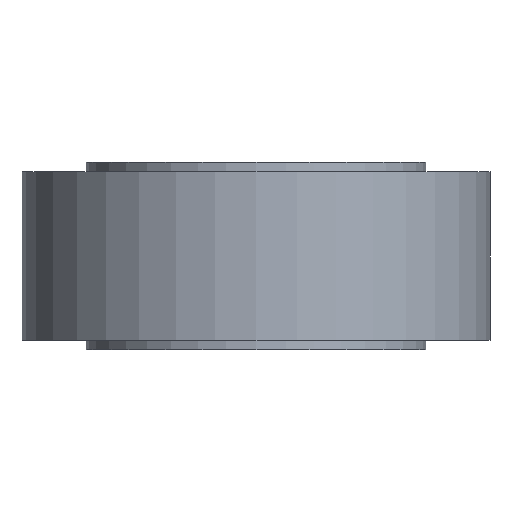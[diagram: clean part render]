
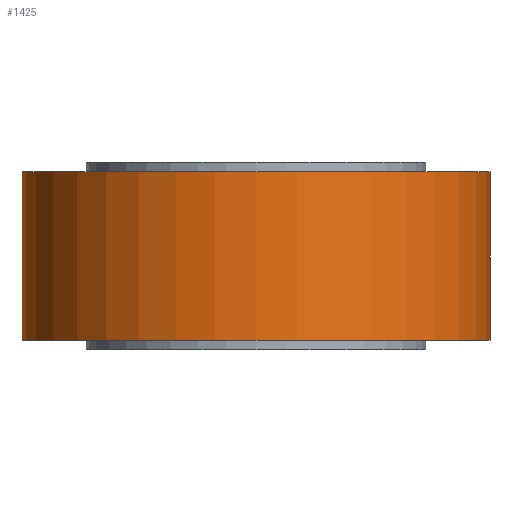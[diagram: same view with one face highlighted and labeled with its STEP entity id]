
A CAD part, front view. The second image highlights one B-rep face of the part: STEP entity #1425.
In plain terms, the highlighted cylindrical face has radius 25 mm (diameter 50 mm), a full revolution.
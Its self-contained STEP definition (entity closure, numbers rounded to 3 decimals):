
#30=B_SPLINE_CURVE_WITH_KNOTS('',3,(#2361,#2362,#2363,#2364,#2365,#2366,
#2367,#2368,#2369,#2370,#2371,#2372,#2373,#2374,#2375,#2376,#2377,#2378,
#2379),.UNSPECIFIED.,.F.,.F.,(4,2,2,2,3,2,2,2,4),(2.838,3.075,
3.311,3.548,3.784,4.021,4.257,
4.494,4.73),.UNSPECIFIED.);
#31=B_SPLINE_CURVE_WITH_KNOTS('',3,(#2380,#2381,#2382,#2383,#2384,#2385,
#2386,#2387,#2388,#2389,#2390,#2391,#2392,#2393,#2394,#2395,#2396,#2397),
 .UNSPECIFIED.,.F.,.F.,(4,2,2,2,2,2,2,2,4),(0.946,1.183,
1.419,1.656,1.892,2.129,2.365,
2.602,2.838),.UNSPECIFIED.);
#64=FACE_BOUND('',#228,.T.);
#133=FACE_OUTER_BOUND('',#227,.T.);
#227=EDGE_LOOP('',(#1034,#1035,#1036,#1037,#1038,#1039));
#228=EDGE_LOOP('',(#1040,#1041));
#316=LINE('',#2355,#384);
#384=VECTOR('',#1867,25.);
#480=CIRCLE('',#1569,25.);
#481=CIRCLE('',#1570,25.);
#482=CIRCLE('',#1572,25.);
#483=CIRCLE('',#1573,25.);
#610=VERTEX_POINT('',#2349);
#611=VERTEX_POINT('',#2350);
#612=VERTEX_POINT('',#2354);
#613=VERTEX_POINT('',#2356);
#614=VERTEX_POINT('',#2359);
#615=VERTEX_POINT('',#2360);
#773=EDGE_CURVE('',#610,#611,#480,.T.);
#774=EDGE_CURVE('',#611,#610,#481,.T.);
#775=EDGE_CURVE('',#611,#612,#316,.T.);
#776=EDGE_CURVE('',#612,#613,#482,.T.);
#777=EDGE_CURVE('',#613,#612,#483,.T.);
#778=EDGE_CURVE('',#614,#615,#30,.T.);
#779=EDGE_CURVE('',#615,#614,#31,.T.);
#1034=ORIENTED_EDGE('',*,*,#773,.F.);
#1035=ORIENTED_EDGE('',*,*,#774,.F.);
#1036=ORIENTED_EDGE('',*,*,#775,.T.);
#1037=ORIENTED_EDGE('',*,*,#776,.T.);
#1038=ORIENTED_EDGE('',*,*,#777,.T.);
#1039=ORIENTED_EDGE('',*,*,#775,.F.);
#1040=ORIENTED_EDGE('',*,*,#778,.T.);
#1041=ORIENTED_EDGE('',*,*,#779,.T.);
#1380=CYLINDRICAL_SURFACE('',#1571,25.);
#1425=ADVANCED_FACE('',(#133,#64),#1380,.T.);
#1569=AXIS2_PLACEMENT_3D('',#2351,#1861,#1862);
#1570=AXIS2_PLACEMENT_3D('',#2352,#1863,#1864);
#1571=AXIS2_PLACEMENT_3D('',#2353,#1865,#1866);
#1572=AXIS2_PLACEMENT_3D('',#2357,#1868,#1869);
#1573=AXIS2_PLACEMENT_3D('',#2358,#1870,#1871);
#1861=DIRECTION('center_axis',(0.,0.,1.));
#1862=DIRECTION('ref_axis',(1.,0.,0.));
#1863=DIRECTION('center_axis',(0.,0.,1.));
#1864=DIRECTION('ref_axis',(1.,0.,0.));
#1865=DIRECTION('center_axis',(0.,0.,1.));
#1866=DIRECTION('ref_axis',(1.,0.,0.));
#1867=DIRECTION('',(0.,0.,-1.));
#1868=DIRECTION('center_axis',(0.,0.,1.));
#1869=DIRECTION('ref_axis',(1.,0.,0.));
#1870=DIRECTION('center_axis',(0.,0.,1.));
#1871=DIRECTION('ref_axis',(1.,0.,0.));
#2349=CARTESIAN_POINT('',(25.,0.,19.));
#2350=CARTESIAN_POINT('',(-25.,0.,19.));
#2351=CARTESIAN_POINT('Origin',(0.,0.,19.));
#2352=CARTESIAN_POINT('Origin',(0.,0.,19.));
#2353=CARTESIAN_POINT('Origin',(0.,0.,10.));
#2354=CARTESIAN_POINT('',(-25.,0.,1.));
#2355=CARTESIAN_POINT('',(-25.,0.,10.));
#2356=CARTESIAN_POINT('',(25.,0.,1.));
#2357=CARTESIAN_POINT('Origin',(0.,0.,1.));
#2358=CARTESIAN_POINT('Origin',(0.,0.,1.));
#2359=CARTESIAN_POINT('',(0.,25.,3.75));
#2360=CARTESIAN_POINT('',(0.,25.,16.25));
#2361=CARTESIAN_POINT('Ctrl Pts',(0.,25.,3.75));
#2362=CARTESIAN_POINT('Ctrl Pts',(0.788,25.,3.75));
#2363=CARTESIAN_POINT('Ctrl Pts',(1.627,24.959,3.908));
#2364=CARTESIAN_POINT('Ctrl Pts',(3.166,24.811,4.547));
#2365=CARTESIAN_POINT('Ctrl Pts',(3.866,24.706,5.028));
#2366=CARTESIAN_POINT('Ctrl Pts',(4.972,24.507,6.134));
#2367=CARTESIAN_POINT('Ctrl Pts',(5.453,24.4,6.834));
#2368=CARTESIAN_POINT('Ctrl Pts',(6.092,24.249,8.373));
#2369=CARTESIAN_POINT('Ctrl Pts',(6.25,24.206,9.212));
#2370=CARTESIAN_POINT('Ctrl Pts',(6.25,24.206,10.));
#2371=CARTESIAN_POINT('Ctrl Pts',(6.25,24.206,10.788));
#2372=CARTESIAN_POINT('Ctrl Pts',(6.092,24.249,11.627));
#2373=CARTESIAN_POINT('Ctrl Pts',(5.453,24.4,13.166));
#2374=CARTESIAN_POINT('Ctrl Pts',(4.972,24.507,13.866));
#2375=CARTESIAN_POINT('Ctrl Pts',(3.866,24.706,14.972));
#2376=CARTESIAN_POINT('Ctrl Pts',(3.166,24.811,15.453));
#2377=CARTESIAN_POINT('Ctrl Pts',(1.627,24.959,16.092));
#2378=CARTESIAN_POINT('Ctrl Pts',(0.788,25.,16.25));
#2379=CARTESIAN_POINT('Ctrl Pts',(0.,25.,16.25));
#2380=CARTESIAN_POINT('Ctrl Pts',(0.,25.,16.25));
#2381=CARTESIAN_POINT('Ctrl Pts',(-0.788,25.,16.25));
#2382=CARTESIAN_POINT('Ctrl Pts',(-1.627,24.959,16.092));
#2383=CARTESIAN_POINT('Ctrl Pts',(-3.166,24.811,15.453));
#2384=CARTESIAN_POINT('Ctrl Pts',(-3.866,24.706,14.972));
#2385=CARTESIAN_POINT('Ctrl Pts',(-4.972,24.507,13.866));
#2386=CARTESIAN_POINT('Ctrl Pts',(-5.453,24.4,13.166));
#2387=CARTESIAN_POINT('Ctrl Pts',(-6.092,24.249,11.627));
#2388=CARTESIAN_POINT('Ctrl Pts',(-6.25,24.206,10.788));
#2389=CARTESIAN_POINT('Ctrl Pts',(-6.25,24.206,9.212));
#2390=CARTESIAN_POINT('Ctrl Pts',(-6.092,24.249,8.373));
#2391=CARTESIAN_POINT('Ctrl Pts',(-5.453,24.4,6.834));
#2392=CARTESIAN_POINT('Ctrl Pts',(-4.972,24.507,6.134));
#2393=CARTESIAN_POINT('Ctrl Pts',(-3.866,24.706,5.028));
#2394=CARTESIAN_POINT('Ctrl Pts',(-3.166,24.811,4.547));
#2395=CARTESIAN_POINT('Ctrl Pts',(-1.627,24.959,3.908));
#2396=CARTESIAN_POINT('Ctrl Pts',(-0.788,25.,3.75));
#2397=CARTESIAN_POINT('Ctrl Pts',(0.,25.,3.75));
